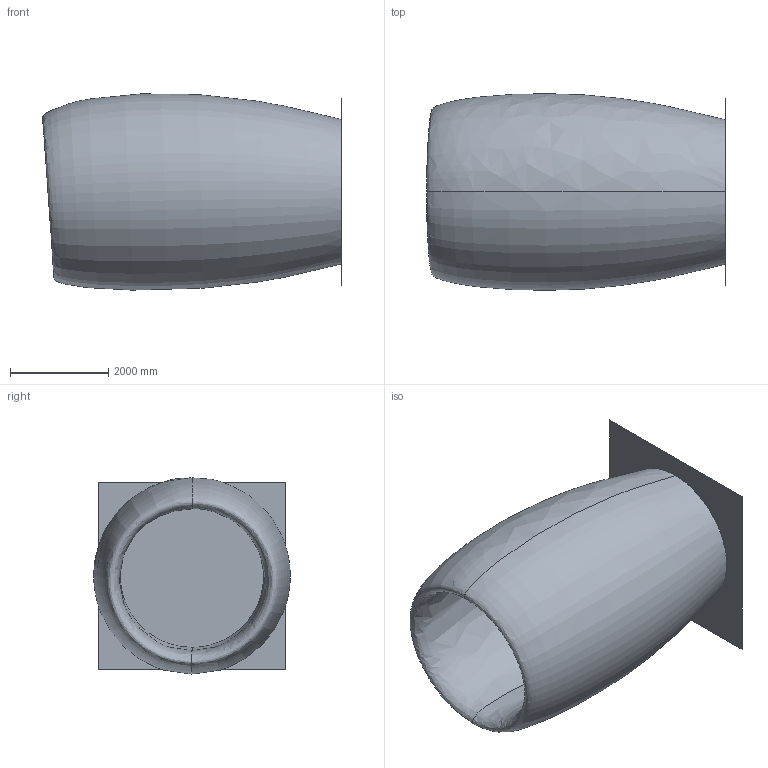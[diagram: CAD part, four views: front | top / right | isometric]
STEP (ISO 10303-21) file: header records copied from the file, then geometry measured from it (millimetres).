
FILE_DESCRIPTION((''),'2;1');
FILE_NAME('','2022-05-11T11:15:57',(''),(''),'','CADfix','');
FILE_SCHEMA(('AUTOMOTIVE_DESIGN { 1 0 10303 214 1 1 1 1 }'));
Length unit declared in the file: inch
Bounding box: 6080.85 x 3999.83 x 3992.44 mm (x, y, z)
Surface area: 146191565 mm2 (no closed solid volume)
Topology: 0 solids, 0 shells, 3 faces, 12 edges, 12 vertices
Faces by surface type: bspline 3
Entity records: 23804 total; most frequent: CARTESIAN_POINT 23782, B_SPLINE_SURFACE_WITH_KNOTS 3, DIMENSIONAL_EXPONENTS 2, PLANE_ANGLE_MEASURE_WITH_UNIT 1, LENGTH_MEASURE_WITH_UNIT 1, UNCERTAINTY_MEASURE_WITH_UNIT 1, GEOMETRIC_SET 1, GEOMETRICALLY_BOUNDED_SURFACE_SHAPE_REPRESENTATION 1
